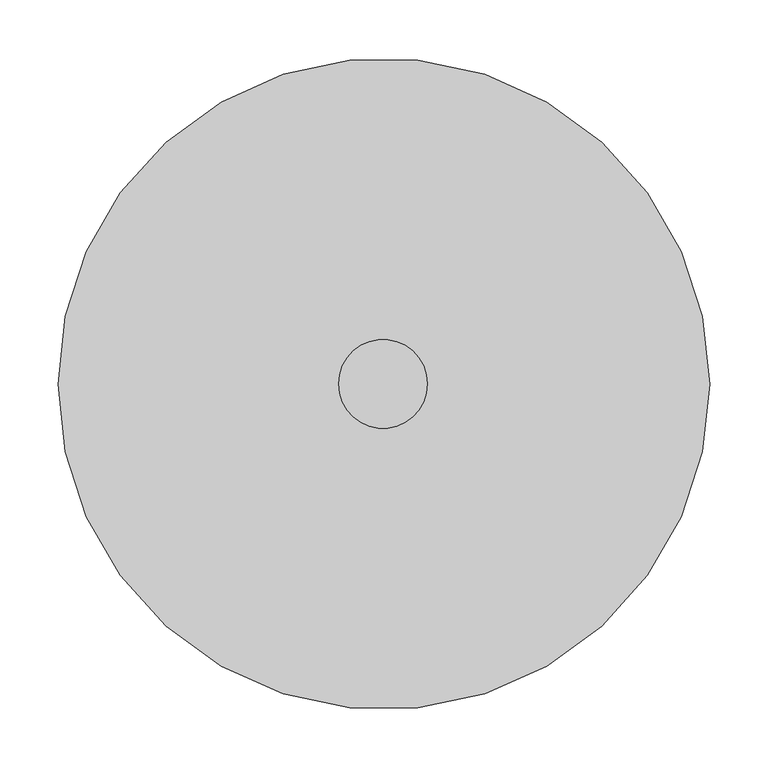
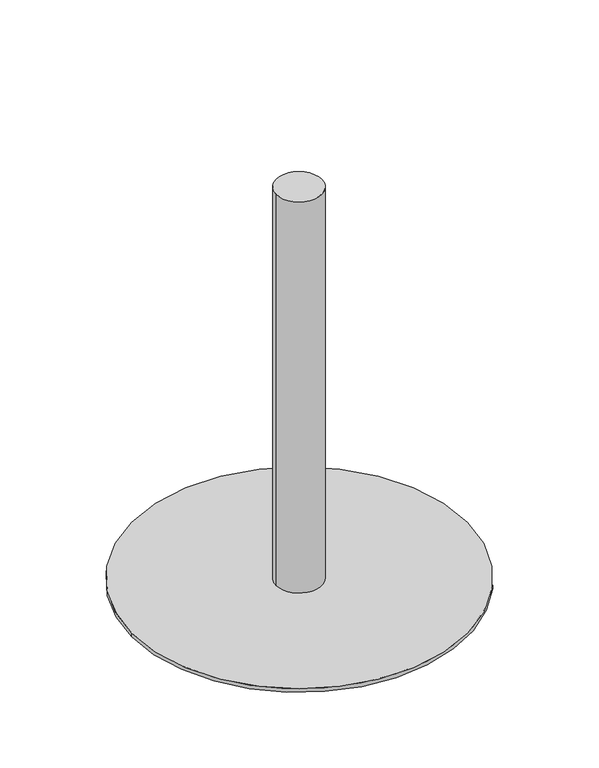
"""IFC4 building model written with IfcOpenShell, lengths in millimetres: furniture geometry, Steelcase - Groupwork - Table - Base : Round Table Base - 27 3/8H x 22dia Base x 3dia Column."""

from ifc_helpers import new_model, si_unit, point, frame, frame_2d, origin, origin_with_axes, origin_2d, place, context, project, spatial, circle_curve, trimmed, segment, composite_curve, outline, extrude, source, transform, mapped, element, save


def furniture_6f91a869(model_context):
    return source(origin(), model_context, "Body", "SweptSolid", [
        extrude(outline(composite_curve([segment(trimmed(circle_curve(frame_2d((-0.79375, 0.0)), 38.1), [point((-38.89375, 0.0))], [point((37.30625, 0.0))], False, "CARTESIAN"), True, "CONTINUOUS"), segment(trimmed(circle_curve(frame_2d((-0.79375, 0.0)), 38.1), [point((37.30625, 0.0))], [point((-38.89375, 0.0))], False, "CARTESIAN"), True, "CONTINUOUS")], self_intersect=False)), frame((0.0, 0.0, 6.35), z_axis=(0.0, 0.0, 1.0), x_axis=(1.0, 0.0, 0.0)), (0.0, 0.0, 1.0), 689.102),
        extrude(outline(composite_curve([segment(trimmed(circle_curve(origin_2d(), 279.4), [point((-279.4, 0.0))], [point((279.4, 0.0))], False, "CARTESIAN"), True, "CONTINUOUS"), segment(trimmed(circle_curve(origin_2d(), 279.4), [point((279.4, 0.0))], [point((-279.4, 0.0))], False, "CARTESIAN"), True, "CONTINUOUS")], self_intersect=False)), origin_with_axes(), (0.0, 0.0, 1.0), 6.35),
    ])


if __name__ == "__main__":
    model = new_model("IFC4")
    model_context = context("Model", 3, world=origin())
    ifc_project = project(units=[si_unit("LENGTHUNIT", "METRE", prefix="MILLI")], contexts=[model_context])
    site = spatial("IfcSite", under=ifc_project)
    building = spatial("IfcBuilding", under=site)
    placement = place(None, origin())
    furniture_shape = furniture_6f91a869(model_context)
    element("IfcFurniture", 1, ObjectType="Steelcase - Groupwork - Table - Base : Round Table Base - 27 3/8H x 22dia Base x 3dia Column", at=placement, inside=building, context=model_context, shape_type="MappedRepresentation", body=[
        mapped(furniture_shape, transform((0.0, 0.0, 0.0), x_axis=(1.0, 0.0, 0.0), y_axis=(0.0, 1.0, 0.0), z_axis=(0.0, 0.0, 1.0))),
    ])
    save(model, "model.ifc")
